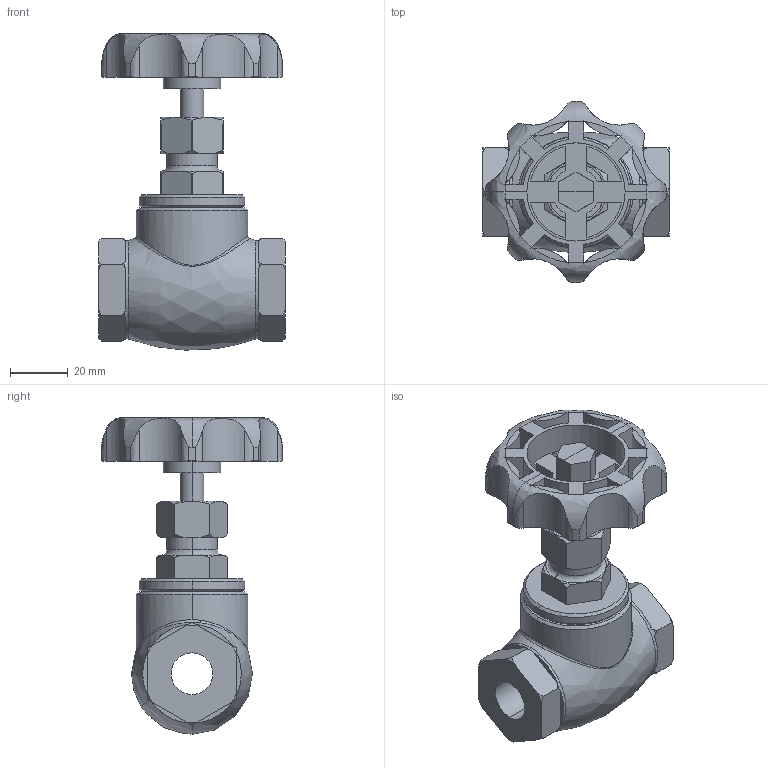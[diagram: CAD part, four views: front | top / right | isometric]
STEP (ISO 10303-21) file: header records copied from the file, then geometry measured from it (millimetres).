
FILE_DESCRIPTION( (''), '2;1');
FILE_NAME ('PC1027.9568.3D GLV-10 10A_14830.stp','2025-07-28T11:27:08',(''),(''),'spGate 19.8.4 (****-****-****-****)','','');
FILE_SCHEMA (('AUTOMOTIVE_DESIGN'));
Length unit declared in the file: millimetre
Bounding box: 65 x 63 x 110.02 mm (x, y, z)
Volume: 111916.7 mm3; surface area: 30106.9 mm2
Topology: 1 solids, 1 shells, 238 faces, 692 edges, 451 vertices
Faces by surface type: bspline 98, plane 80, cylinder 60
Entity records: 16004 total; most frequent: CARTESIAN_POINT 5314, ORIENTED_EDGE 1380, COLOUR_RGB 929, PRESENTATION_STYLE_ASSIGNMENT 929, STYLED_ITEM 929, DIRECTION 912, EDGE_CURVE 690, DRAUGHTING_PRE_DEFINED_CURVE_FONT 690
